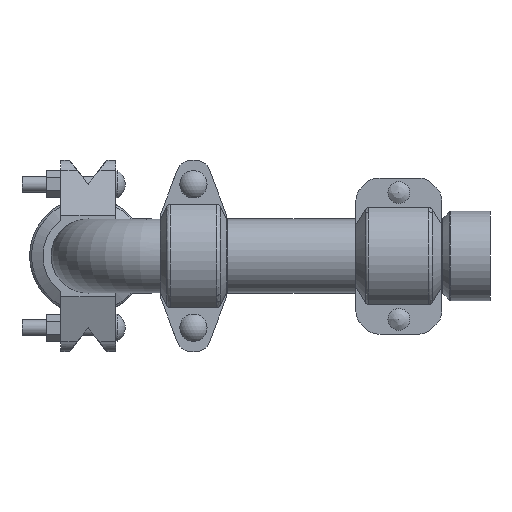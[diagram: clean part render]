
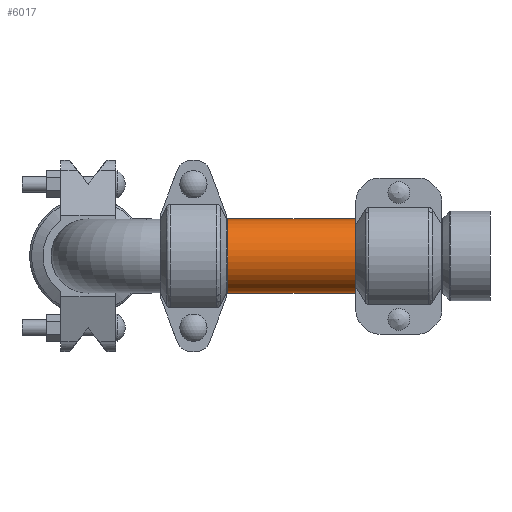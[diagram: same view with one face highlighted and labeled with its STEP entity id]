
A CAD part, front view. The second image highlights one B-rep face of the part: STEP entity #6017.
In plain terms, the highlighted cylindrical face has radius 30.163 mm (diameter 60.325 mm), a full revolution.
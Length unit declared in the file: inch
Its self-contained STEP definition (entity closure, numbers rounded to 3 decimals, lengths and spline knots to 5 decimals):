
#221=CYLINDRICAL_SURFACE('',#6665,1.1875);
#674=LINE('',#10106,#1092);
#1092=VECTOR('',#7797,1.1875);
#1492=FACE_OUTER_BOUND('',#1831,.T.);
#1831=EDGE_LOOP('',(#4509,#4510,#4511,#4512,#4513,#4514));
#2215=CIRCLE('',#6663,1.1875);
#2216=CIRCLE('',#6664,1.1875);
#2217=CIRCLE('',#6666,1.1875);
#2218=CIRCLE('',#6667,1.1875);
#2641=VERTEX_POINT('',#10097);
#2642=VERTEX_POINT('',#10098);
#2643=VERTEX_POINT('',#10102);
#2644=VERTEX_POINT('',#10103);
#3326=EDGE_CURVE('',#2641,#2642,#2215,.T.);
#3327=EDGE_CURVE('',#2642,#2641,#2216,.T.);
#3328=EDGE_CURVE('',#2643,#2644,#2217,.T.);
#3329=EDGE_CURVE('',#2644,#2643,#2218,.T.);
#3330=EDGE_CURVE('',#2644,#2642,#674,.T.);
#4509=ORIENTED_EDGE('',*,*,#3328,.F.);
#4510=ORIENTED_EDGE('',*,*,#3329,.F.);
#4511=ORIENTED_EDGE('',*,*,#3330,.T.);
#4512=ORIENTED_EDGE('',*,*,#3327,.T.);
#4513=ORIENTED_EDGE('',*,*,#3326,.T.);
#4514=ORIENTED_EDGE('',*,*,#3330,.F.);
#6017=ADVANCED_FACE('',(#1492),#221,.T.);
#6663=AXIS2_PLACEMENT_3D('',#10099,#7787,#7788);
#6664=AXIS2_PLACEMENT_3D('',#10100,#7789,#7790);
#6665=AXIS2_PLACEMENT_3D('',#10101,#7791,#7792);
#6666=AXIS2_PLACEMENT_3D('',#10104,#7793,#7794);
#6667=AXIS2_PLACEMENT_3D('',#10105,#7795,#7796);
#7787=DIRECTION('center_axis',(1.,0.,0.));
#7788=DIRECTION('ref_axis',(0.,0.,-1.));
#7789=DIRECTION('center_axis',(1.,0.,0.));
#7790=DIRECTION('ref_axis',(0.,0.,-1.));
#7791=DIRECTION('center_axis',(1.,0.,0.));
#7792=DIRECTION('ref_axis',(0.,1.,0.));
#7793=DIRECTION('center_axis',(1.,0.,0.));
#7794=DIRECTION('ref_axis',(0.,0.,-1.));
#7795=DIRECTION('center_axis',(1.,0.,0.));
#7796=DIRECTION('ref_axis',(0.,0.,-1.));
#7797=DIRECTION('',(-1.,0.,0.));
#10097=CARTESIAN_POINT('',(-2.0485,1.1875,0.));
#10098=CARTESIAN_POINT('',(-2.0485,-1.1875,0.));
#10099=CARTESIAN_POINT('Origin',(-2.0485,0.,0.));
#10100=CARTESIAN_POINT('Origin',(-2.0485,0.,0.));
#10101=CARTESIAN_POINT('Origin',(0.,0.,0.));
#10102=CARTESIAN_POINT('',(2.0485,1.1875,0.));
#10103=CARTESIAN_POINT('',(2.0485,-1.1875,0.));
#10104=CARTESIAN_POINT('Origin',(2.0485,0.,0.));
#10105=CARTESIAN_POINT('Origin',(2.0485,0.,0.));
#10106=CARTESIAN_POINT('',(0.,-1.1875,0.));
